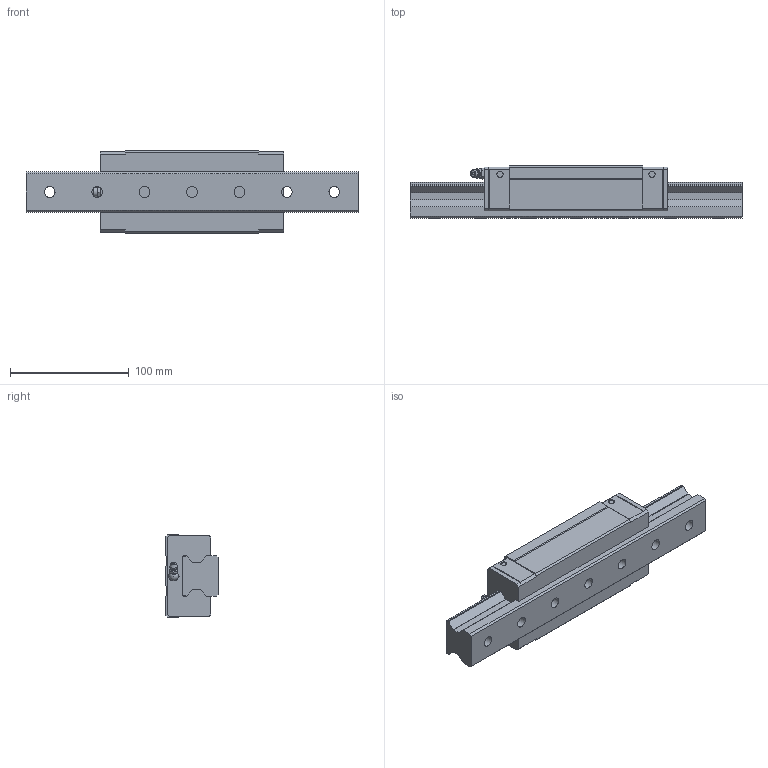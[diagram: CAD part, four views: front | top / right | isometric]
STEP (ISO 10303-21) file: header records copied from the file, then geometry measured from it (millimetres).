
FILE_DESCRIPTION(/* description */ ('STEP AP203'),/* implementation_level */ '2;1');
FILE_NAME(/* name */ 'SRN35LR1SS-280L_G20_0_B-M6F_62-5_0_0_0_1',/* time_stamp */ '2024-05-23T10:57:52+02:00',/* author */ ('License CC BY-ND 4.0'),/* organization */ ('CADENAS'),/* preprocessor_version */ 'ST-DEVELOPER v19.3',/* originating_system */ 'PARTsolutions',/* authorisation */ ' ');
FILE_SCHEMA (('CONFIG_CONTROL_DESIGN'));
Length unit declared in the file: millimetre
Products named in the file (4): SRN35LR1SS-280L_G20_0_B-M6F_62-5_0_0_0_1; SRN35LR28020 Track; SRN35LRSSB-M6F1 Slide35-65; B-M6F-SRN_grease_nipple_joint
Assembly tree (3 placements, depth 2):
  SRN35LR1SS-280L_G20_0_B-M6F_62-5_0_0_0_1
    SRN35LR28020 Track
    SRN35LRSSB-M6F1 Slide35-65
    B-M6F-SRN_grease_nipple_joint
Bounding box: 280 x 44 x 70 mm (x, y, z)
Volume: 520295.3 mm3; surface area: 93498.4 mm2
Topology: 3 solids, 3 shells, 195 faces, 504 edges, 327 vertices
Faces by surface type: plane 125, cylinder 40, cone 25, sphere 3, torus 2
Full cylindrical faces by diameter (mm): 4.917 x2, 5.2 x4, 6 x1, 6.647 x6, 8 x1, 9 x7, 14 x7
Entity records: 5717 total; most frequent: CARTESIAN_POINT 1058, DIRECTION 920, ORIENTED_EDGE 876, EDGE_CURVE 438, VERTEX_POINT 321, AXIS2_PLACEMENT_3D 307, LINE 306, VECTOR 306
